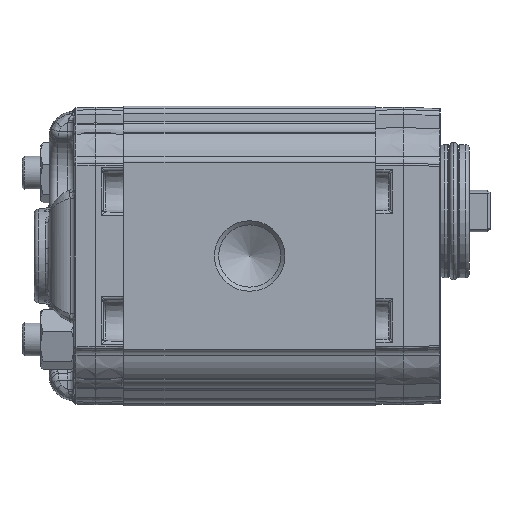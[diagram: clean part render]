
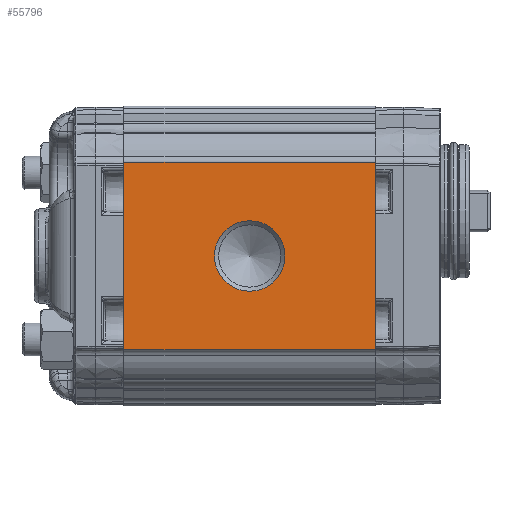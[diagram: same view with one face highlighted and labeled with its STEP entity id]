
A CAD part, left-side view. The second image highlights one B-rep face of the part: STEP entity #55796.
In plain terms, the highlighted planar face has unit normal (-1, 0, 0) as drawn and (1, 0, 0) by its records, which use the part's own axes.
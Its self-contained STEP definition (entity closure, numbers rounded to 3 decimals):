
#4419=LINE('',#97692,#6319);
#4421=LINE('',#97721,#6321);
#4446=LINE('',#97809,#6346);
#4447=LINE('',#97811,#6347);
#6319=VECTOR('',#66091,1000.);
#6321=VECTOR('',#66119,1000.);
#6346=VECTOR('',#66212,1000.);
#6347=VECTOR('',#66215,1000.);
#12026=ORIENTED_EDGE('',*,*,#21549,.T.);
#12027=ORIENTED_EDGE('',*,*,#21539,.T.);
#12028=ORIENTED_EDGE('',*,*,#21491,.T.);
#12029=ORIENTED_EDGE('',*,*,#21540,.T.);
#12030=ORIENTED_EDGE('',*,*,#21477,.F.);
#21477=EDGE_CURVE('',#26507,#26508,#4419,.T.);
#21491=EDGE_CURVE('',#26522,#26521,#4421,.T.);
#21539=EDGE_CURVE('',#26507,#26522,#4446,.T.);
#21540=EDGE_CURVE('',#26521,#26508,#4447,.F.);
#21549=EDGE_CURVE('',#26551,#26551,#29666,.F.);
#26507=VERTEX_POINT('',#97691);
#26508=VERTEX_POINT('',#97693);
#26521=VERTEX_POINT('',#97720);
#26522=VERTEX_POINT('',#97722);
#26551=VERTEX_POINT('',#97837);
#29666=CIRCLE('',#59247,8.475);
#31974=EDGE_LOOP('',(#12026));
#31975=EDGE_LOOP('',(#12027,#12028,#12029,#12030));
#34769=FACE_BOUND('',#31974,.T.);
#34770=FACE_BOUND('',#31975,.T.);
#36663=PLANE('',#59246);
#55796=ADVANCED_FACE('',(#34769,#34770),#36663,.T.);
#59246=AXIS2_PLACEMENT_3D('',#97835,#66254,#66255);
#59247=AXIS2_PLACEMENT_3D('',#97836,#66256,#66257);
#66091=DIRECTION('',(0.,0.,-1.));
#66119=DIRECTION('',(0.,0.,-1.));
#66212=DIRECTION('',(0.,-1.,0.));
#66215=DIRECTION('',(0.,-1.,0.));
#66254=DIRECTION('',(1.,0.,0.));
#66255=DIRECTION('',(0.,0.,-1.));
#66256=DIRECTION('',(1.,0.,0.));
#66257=DIRECTION('',(0.,0.,-1.));
#97691=CARTESIAN_POINT('',(33.,60.5,22.5));
#97692=CARTESIAN_POINT('',(33.,60.5,-21.711));
#97693=CARTESIAN_POINT('',(33.,60.5,-22.5));
#97720=CARTESIAN_POINT('',(33.,0.,-22.5));
#97721=CARTESIAN_POINT('',(33.,0.,-21.711));
#97722=CARTESIAN_POINT('',(33.,0.,22.5));
#97809=CARTESIAN_POINT('',(33.,60.5,22.5));
#97811=CARTESIAN_POINT('',(33.,60.5,-22.5));
#97835=CARTESIAN_POINT('',(33.,132.376,-45.494));
#97836=CARTESIAN_POINT('',(33.,30.25,0.));
#97837=CARTESIAN_POINT('',(33.,30.25,-8.475));
